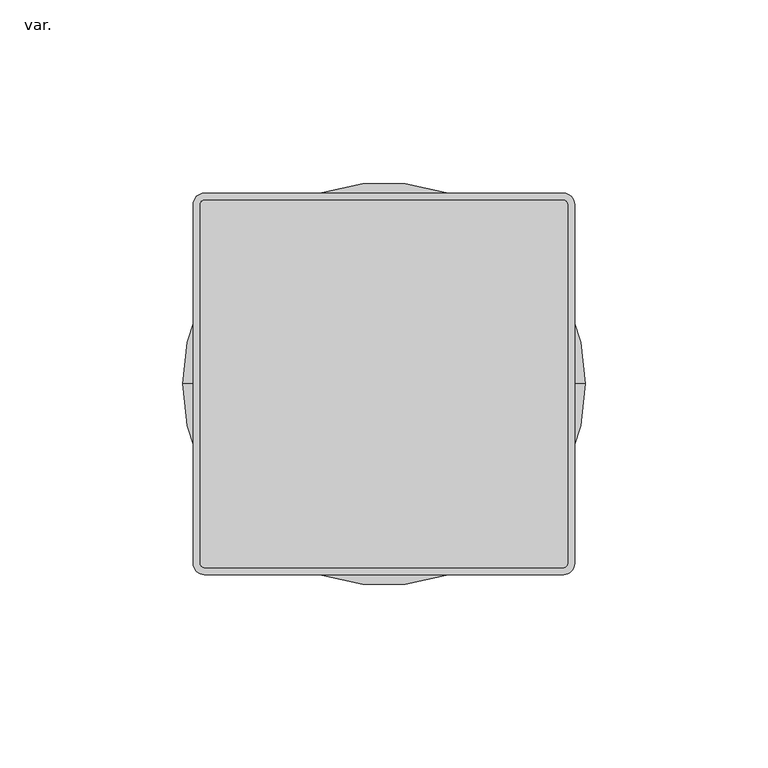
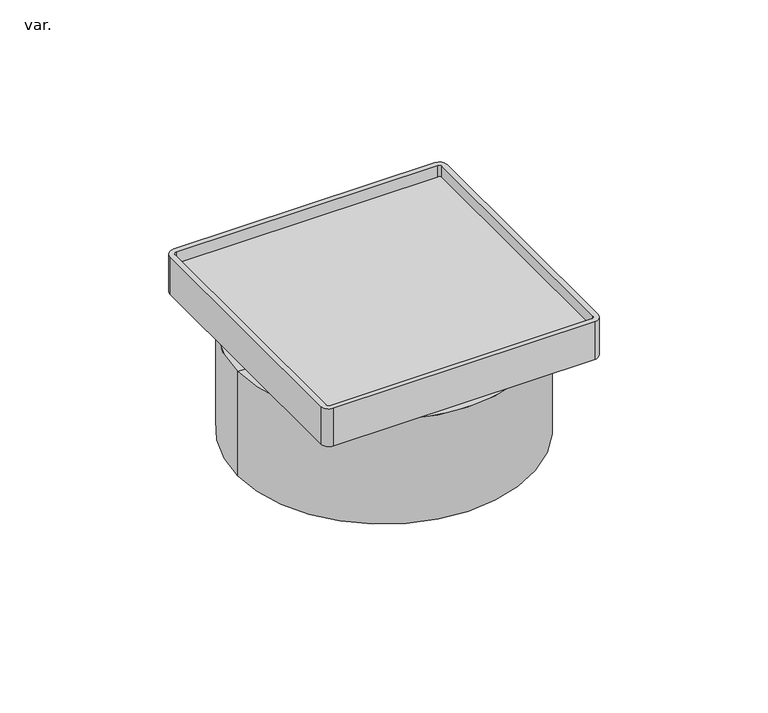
"""IFC4 building model written with IfcOpenShell, lengths in millimetres: pipe fitting geometry, AmancoWavin_Unionesdetubería_PVCNivel1ZNoUsarMarcoPortarrejilla(Para Silentium) : var.."""

from ifc_helpers import new_model, si_unit, frame, origin, place, context, project, spatial, polyline, circle_curve, source, transform, mapped, element, save
from ifc_brep_helpers import plane_surface, cylinder_surface, revolved_surface, advanced_brep


def var_f3028fb4(model_context):
    return source(origin(), model_context, "Body", "AdvancedBrep", [
        advanced_brep(
        [(-20.0953589, 52.15, 15.0), (-118.3953589, 52.15, 15.0), (-121.3953589, 49.15, 15.0), (-121.3953589, -49.15, 15.0), (-118.3953589, -52.15, 15.0), (-20.0953589, -52.15, 15.0), (-17.0953589, -49.15, 15.0), (-17.0953589, 49.15, 15.0), (-119.4453589, 49.2, 15.0), (-118.4453589, 50.2, 15.0), (-20.0453589, 50.2, 15.0), (-19.0453589, 49.2, 15.0), (-19.0453589, -49.2, 15.0), (-20.0453589, -50.2, 15.0), (-118.4453589, -50.2, 15.0), (-119.4453589, -49.2, 15.0), (-20.0953589, 52.15, 0.0), (-17.0953589, 49.15, 0.0), (-17.0953589, -49.15, 0.0), (-20.0953589, -52.15, 0.0), (-118.3953589, -52.15, 0.0), (-121.3953589, -49.15, 0.0), (-121.3953589, 49.15, 0.0), (-118.3953589, 52.15, 0.0), (-118.4453589, 50.2, 10.5), (-119.4453589, 49.2, 10.5), (-119.4453589, -49.2, 10.5), (-118.4453589, -50.2, 10.5), (-20.0453589, -50.2, 10.5), (-19.0453589, -49.2, 10.5), (-19.0453589, 49.2, 10.5), (-20.0453589, 50.2, 10.5)],
        [
            (0, 1),
            (1, 2, circle_curve(frame((-118.3953589, 49.15, 15.0), z_axis=(0.0, 0.0, 1.0), x_axis=(1.0, 0.0, 0.0)), 3.0)),
            (2, 3),
            (3, 4, circle_curve(frame((-118.3953589, -49.15, 15.0), z_axis=(0.0, 0.0, 1.0), x_axis=(1.0, 0.0, 0.0)), 3.0)),
            (4, 5),
            (5, 6, circle_curve(frame((-20.0953589, -49.15, 15.0), z_axis=(0.0, 0.0, 1.0), x_axis=(1.0, 0.0, 0.0)), 3.0)),
            (6, 7),
            (7, 0, circle_curve(frame((-20.0953589, 49.15, 15.0), z_axis=(0.0, 0.0, 1.0), x_axis=(1.0, 0.0, 0.0)), 3.0)),
            (8, 9, circle_curve(frame((-118.4453589, 49.2, 15.0), z_axis=(0.0, 0.0, -1.0), x_axis=(1.0, 0.0, 0.0)), 1.0)),
            (9, 10),
            (10, 11, circle_curve(frame((-20.0453589, 49.2, 15.0), z_axis=(0.0, 0.0, -1.0), x_axis=(1.0, 0.0, 0.0)), 1.0)),
            (11, 12),
            (12, 13, circle_curve(frame((-20.0453589, -49.2, 15.0), z_axis=(0.0, 0.0, -1.0), x_axis=(1.0, 0.0, 0.0)), 1.0)),
            (13, 14),
            (14, 15, circle_curve(frame((-118.4453589, -49.2, 15.0), z_axis=(0.0, 0.0, -1.0), x_axis=(1.0, 0.0, 0.0)), 1.0)),
            (15, 8),
            (16, 17, circle_curve(frame((-20.0953589, 49.15, 0.0), z_axis=(0.0, 0.0, -1.0), x_axis=(1.0, 0.0, 0.0)), 3.0)),
            (17, 18),
            (18, 19, circle_curve(frame((-20.0953589, -49.15, 0.0), z_axis=(0.0, 0.0, -1.0), x_axis=(1.0, 0.0, 0.0)), 3.0)),
            (19, 20),
            (20, 21, circle_curve(frame((-118.3953589, -49.15, 0.0), z_axis=(0.0, 0.0, -1.0), x_axis=(1.0, 0.0, 0.0)), 3.0)),
            (21, 22),
            (22, 23, circle_curve(frame((-118.3953589, 49.15, 0.0), z_axis=(0.0, 0.0, -1.0), x_axis=(1.0, 0.0, 0.0)), 3.0)),
            (23, 16),
            (0, 16),
            (23, 1),
            (22, 2),
            (21, 3),
            (20, 4),
            (19, 5),
            (18, 6),
            (17, 7),
            (24, 25, circle_curve(frame((-118.4453589, 49.2, 10.5), z_axis=(0.0, 0.0, 1.0), x_axis=(1.0, 0.0, 0.0)), 1.0)),
            (25, 26),
            (26, 27, circle_curve(frame((-118.4453589, -49.2, 10.5), z_axis=(0.0, 0.0, 1.0), x_axis=(1.0, 0.0, 0.0)), 1.0)),
            (27, 28),
            (28, 29, circle_curve(frame((-20.0453589, -49.2, 10.5), z_axis=(0.0, 0.0, 1.0), x_axis=(1.0, 0.0, 0.0)), 1.0)),
            (29, 30),
            (30, 31, circle_curve(frame((-20.0453589, 49.2, 10.5), z_axis=(0.0, 0.0, 1.0), x_axis=(1.0, 0.0, 0.0)), 1.0)),
            (31, 24),
            (24, 9),
            (8, 25),
            (15, 26),
            (14, 27),
            (13, 28),
            (12, 29),
            (11, 30),
            (10, 31),
        ],
        [
            plane_surface(frame((-118.3953589, 52.15, 15.0), z_axis=(0.0, 0.0, 1.0), x_axis=(-1.0, 0.0, 0.0))),
            plane_surface(frame((-118.3953589, 52.15, 0.0), z_axis=(0.0, 0.0, -1.0), x_axis=(1.0, 0.0, 0.0))),
            plane_surface(frame((-20.0953589, 52.15, 15.0), z_axis=(0.0, 1.0, 0.0), x_axis=(0.0, 0.0, -1.0))),
            cylinder_surface(frame((-118.3953589, 49.15, 0.0), z_axis=(0.0, 0.0, 1.0), x_axis=(1.0, 0.0, 0.0)), 3.0),
            plane_surface(frame((-121.3953589, 49.15, 15.0), z_axis=(-1.0, 0.0, 0.0), x_axis=(0.0, 0.0, -1.0))),
            cylinder_surface(frame((-118.3953589, -49.15, 0.0), z_axis=(0.0, 0.0, 1.0), x_axis=(1.0, 0.0, 0.0)), 3.0),
            plane_surface(frame((-118.3953589, -52.15, 15.0), z_axis=(0.0, -1.0, 0.0), x_axis=(0.0, 0.0, -1.0))),
            cylinder_surface(frame((-20.0953589, -49.15, 0.0), z_axis=(0.0, 0.0, 1.0), x_axis=(1.0, 0.0, 0.0)), 3.0),
            plane_surface(frame((-17.0953589, -49.15, 15.0), z_axis=(1.0, 0.0, 0.0), x_axis=(0.0, 0.0, -1.0))),
            cylinder_surface(frame((-20.0953589, 49.15, 0.0), z_axis=(0.0, 0.0, 1.0), x_axis=(1.0, 0.0, 0.0)), 3.0),
            plane_surface(frame((-117.4453589, 49.2, 10.5), z_axis=(0.0, 0.0, 1.0), x_axis=(0.0, -1.0, 0.0))),
            revolved_surface(polyline([(-117.4453589, 49.2, 15.0), (-117.4453589, 49.2, 10.5)]), (-118.4453589, 49.2, 10.5), (0.0, 0.0, 1.0)),
            plane_surface(frame((-119.4453589, 49.2, 15.0), z_axis=(1.0, 0.0, 0.0), x_axis=(0.0, 0.0, -1.0))),
            revolved_surface(polyline([(-117.4453589, -49.2, 15.0), (-117.4453589, -49.2, 10.5)]), (-118.4453589, -49.2, 10.5), (0.0, 0.0, 1.0)),
            plane_surface(frame((-118.4453589, -50.2, 15.0), z_axis=(0.0, 1.0, 0.0), x_axis=(0.0, 0.0, -1.0))),
            revolved_surface(polyline([(-19.0453589, -49.2, 15.0), (-19.0453589, -49.2, 10.5)]), (-20.0453589, -49.2, 10.5), (0.0, 0.0, 1.0)),
            plane_surface(frame((-19.0453589, -49.2, 15.0), z_axis=(-1.0, 0.0, 0.0), x_axis=(0.0, 0.0, -1.0))),
            revolved_surface(polyline([(-19.0453589, 49.2, 15.0), (-19.0453589, 49.2, 10.5)]), (-20.0453589, 49.2, 10.5), (0.0, 0.0, 1.0)),
            plane_surface(frame((-20.0453589, 50.2, 15.0), z_axis=(0.0, -1.0, 0.0), x_axis=(0.0, 0.0, -1.0))),
        ],
        [
            (0, [[1, 2, 3, 4, 5, 6, 7, 8], [9, 10, 11, 12, 13, 14, 15, 16]]),
            (1, [[17, 18, 19, 20, 21, 22, 23, 24]]),
            (2, [[-1, 25, -24, 26]]),
            (3, [[-2, -26, -23, 27]]),
            (4, [[-3, -27, -22, 28]]),
            (5, [[-4, -28, -21, 29]]),
            (6, [[-5, -29, -20, 30]]),
            (7, [[-6, -30, -19, 31]]),
            (8, [[-7, -31, -18, 32]]),
            (9, [[-8, -32, -17, -25]]),
            (10, [[33, 34, 35, 36, 37, 38, 39, 40]]),
            (11, [[-33, 41, -9, 42]]),
            (12, [[-34, -42, -16, 43]]),
            (13, [[-35, -43, -15, 44]]),
            (14, [[-36, -44, -14, 45]]),
            (15, [[-37, -45, -13, 46]]),
            (16, [[-38, -46, -12, 47]]),
            (17, [[-39, -47, -11, 48]]),
            (18, [[-40, -48, -10, -41]]),
        ],
    ),
        advanced_brep(
        [(-14.2453589, 0.0, -41.5), (-124.2453589, 0.0, -41.5), (-120.6453589, 0.0, -41.5), (-17.8453589, 0.0, -41.5), (-14.2453589, 0.0, 0.0), (-124.2453589, 0.0, 0.0), (-17.8453589, 0.0, 0.0), (-120.6453589, 0.0, 0.0)],
        [
            (0, 1, circle_curve(frame((-69.2453589, 0.0, -41.5), z_axis=(0.0, 0.0, -1.0), x_axis=(-1.0, 0.0, 0.0)), 55.0)),
            (1, 2),
            (2, 3, circle_curve(frame((-69.2453589, 0.0, -41.5), z_axis=(0.0, 0.0, 1.0), x_axis=(-1.0, 0.0, 0.0)), 51.4)),
            (3, 0),
            (1, 0, circle_curve(frame((-69.2453589, 0.0, -41.5), z_axis=(0.0, 0.0, -1.0), x_axis=(-1.0, 0.0, 0.0)), 55.0)),
            (3, 2, circle_curve(frame((-69.2453589, 0.0, -41.5), z_axis=(0.0, 0.0, 1.0), x_axis=(-1.0, 0.0, 0.0)), 51.4)),
            (4, 5, circle_curve(frame((-69.2453589, 0.0, 0.0), z_axis=(0.0, 0.0, -1.0), x_axis=(-1.0, 0.0, 0.0)), 55.0)),
            (5, 1),
            (0, 4),
            (5, 4, circle_curve(frame((-69.2453589, 0.0, 0.0), z_axis=(0.0, 0.0, -1.0), x_axis=(-1.0, 0.0, 0.0)), 55.0)),
            (6, 7, circle_curve(frame((-69.2453589, 0.0, 0.0), z_axis=(0.0, 0.0, -1.0), x_axis=(-1.0, 0.0, 0.0)), 51.4)),
            (7, 5),
            (4, 6),
            (7, 6, circle_curve(frame((-69.2453589, 0.0, 0.0), z_axis=(0.0, 0.0, -1.0), x_axis=(-1.0, 0.0, 0.0)), 51.4)),
            (2, 7),
            (6, 3),
        ],
        [
            plane_surface(frame((-69.2453589, 0.0, -41.5), z_axis=(0.0, 0.0, -1.0), x_axis=(-1.0, 0.0, 0.0))),
            cylinder_surface(frame((-69.2453589, 0.0, -2214.3150031), z_axis=(0.0, 0.0, 1.0), x_axis=(-1.0, 0.0, 0.0)), 55.0),
            plane_surface(frame((-69.2453589, 0.0, 0.0), z_axis=(0.0, 0.0, 1.0), x_axis=(-1.0, 0.0, 0.0))),
            revolved_surface(polyline([(-120.64535889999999, 0.0, 0.0), (-120.64535889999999, 0.0, -41.5)]), (-69.2453589, 0.0, -2214.3150031), (0.0, 0.0, 1.0)),
        ],
        [
            (0, [[1, 2, 3, 4]]),
            (0, [[5, -4, 6, -2]]),
            (1, [[7, 8, -1, 9]]),
            (1, [[10, -9, -5, -8]]),
            (2, [[11, 12, -7, 13]]),
            (2, [[14, -13, -10, -12]]),
            (3, [[-3, 15, -11, 16]]),
            (3, [[-6, -16, -14, -15]]),
        ],
    ),
    ])


if __name__ == "__main__":
    model = new_model("IFC4")
    model_context = context("Model", 3, world=origin())
    ifc_project = project(units=[si_unit("LENGTHUNIT", "METRE", prefix="MILLI")], contexts=[model_context])
    site = spatial("IfcSite", under=ifc_project)
    building = spatial("IfcBuilding", under=site)
    placement = place(None, origin())
    var_shape = var_f3028fb4(model_context)
    element("IfcPipeFitting", 1, ObjectType="AmancoWavin_Unionesdetubería_PVCNivel1ZNoUsarMarcoPortarrejilla(Para Silentium) : var.", at=placement, inside=building, context=model_context, shape_type="MappedRepresentation", body=[
        mapped(var_shape, transform((0.0, 0.0, 0.0), x_axis=(1.0, 0.0, 0.0), y_axis=(0.0, 1.0, 0.0), z_axis=(0.0, 0.0, 1.0))),
    ])
    save(model, "model.ifc")
